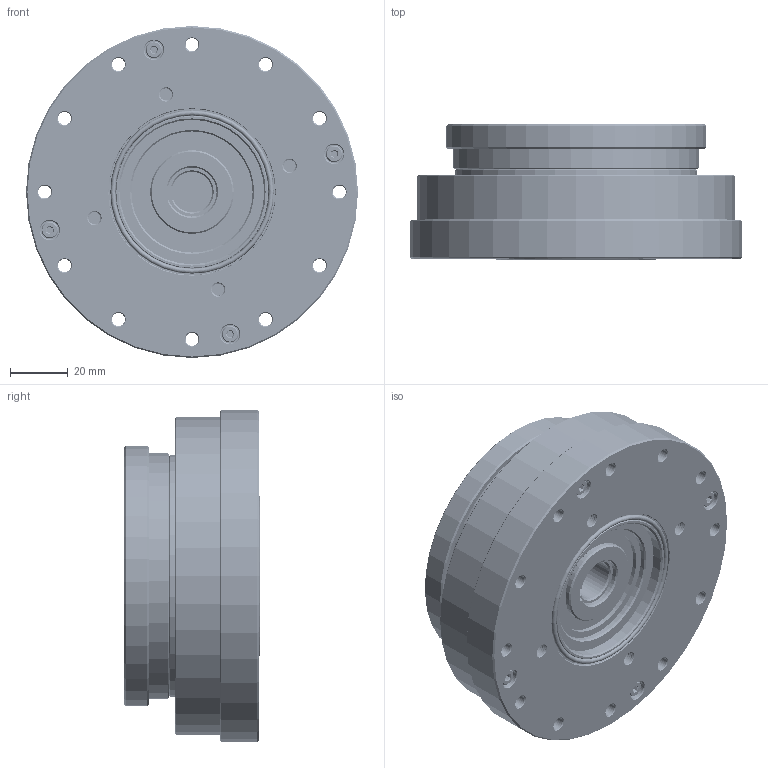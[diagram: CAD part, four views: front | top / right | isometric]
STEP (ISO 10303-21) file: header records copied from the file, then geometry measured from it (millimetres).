
FILE_DESCRIPTION(/* description */ (''),/* implementation_level */ '2;1');
FILE_NAME(/* name */ 'FA25.stp',/* time_stamp */ '2025-05-07T08:40:10+08:00',/* author */ (''),/* organization */ (''),/* preprocessor_version */ 'ST-DEVELOPER v16',/* originating_system */ 'SIEMENS PLM Software NX 10.0',/* authorisation */ '');
FILE_SCHEMA (('CONFIG_CONTROL_DESIGN'));
Length unit declared in the file: millimetre
Products named in the file (46): FA25_id6_x_t; 倒角1_id11_x_t; FA25_id16_x_t; FA25_id21_x_t; FA25_id26_x_t; FA25_id31_x_t; FA25_id36_x_t; FA25_id41_x_t; FA25_id46_x_t; FA25_id51_x_t; FA25_id56_x_t; FA25_id61_x_t; FA25_id66_x_t; FA25_id71_x_t; FA25_id76_x_t; FA25_id81_x_t; FA25_id86_x_t; FA25_id91_x_t; FA25_id96_x_t; FA25_id101_x_t; FA25_id106_x_t; FA25_id111_x_t; FA25_id116_x_t; FA25_id121_x_t; FA25_id126_x_t; FA25_id131_x_t; FA25_id136_x_t; FA25_id141_x_t; FA25_id146_x_t; FA25_id151_x_t; FA25_id156_x_t; FA25_id161_x_t; FA25_id166_x_t; FA25_id171_x_t; FA25_id190_x_t; FA25_id195_x_t; FA25_id200_x_t; FA25_id205_x_t; FA25_id210_x_t; FA25_id215_x_t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
Assembly tree (58 placements, depth 2):
  FA25_x_t
    FA25_id246_x_t  x4
    FA25_id241_x_t
    FA25_id236_x_t
    FA25_id231_x_t
    FA25_id220_x_t  x4
    FA25_id215_x_t
    FA25_id210_x_t
    FA25_id205_x_t
    FA25_id200_x_t
    FA25_id195_x_t
    FA25_id190_x_t
    FA25_id171_x_t  x8
    FA25_id166_x_t
    FA25_id161_x_t
    FA25_id156_x_t
    FA25_id151_x_t
    FA25_id146_x_t
    FA25_id141_x_t
    FA25_id136_x_t
    FA25_id131_x_t
    FA25_id126_x_t
    FA25_id121_x_t
    FA25_id116_x_t
    FA25_id111_x_t
    FA25_id106_x_t
    FA25_id101_x_t
    FA25_id96_x_t
    FA25_id91_x_t
    FA25_id86_x_t
    FA25_id81_x_t
    FA25_id76_x_t
    FA25_id71_x_t
    FA25_id66_x_t
    FA25_id61_x_t
    FA25_id56_x_t
    FA25_id51_x_t
    FA25_id46_x_t
    FA25_id41_x_t
    FA25_id36_x_t
    FA25_id31_x_t
    FA25_id26_x_t
    FA25_id21_x_t
    FA25_id16_x_t
    倒角1_id11_x_t
    FA25_id6_x_t
Bounding box: 115 x 46.9 x 115 mm (x, y, z)
Volume: 270206.5 mm3; surface area: 176301.6 mm2
Topology: 58 solids, 58 shells, 1521 faces, 3620 edges, 2298 vertices
Faces by surface type: plane 603, cylinder 358, cone 348, bspline 143, extrusion 34, sphere 23, torus 12
Full cylindrical faces by diameter (mm): 2.5 x4, 3.5 x24, 4.5 x68, 4.7 x9, 5 x1, 5.68 x8, 6 x8, 6.5 x4, 23.9 x2, 25 x4, 28 x3, 29 x1, 37.4 x1, 39 x4, 42 x3, 43.7 x1, 44.5 x2, 45.2 x2, 45.212 x1, 46.8 x3, 47.3 x1, 48.412 x2, 49 x1, 49.5 x1, 50 x1, 52.8 x1, 54 x1, 56.5 x1, 57.6 x1, 58.341 x2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
Entity records: 191298 total; most frequent: CARTESIAN_POINT 161683, DIRECTION 4740, ORIENTED_EDGE 4396, EDGE_CURVE 2198, AXIS2_PLACEMENT_3D 2078, EDGE_LOOP 1934, VERTEX_POINT 1689, FACE_BOUND 1380
